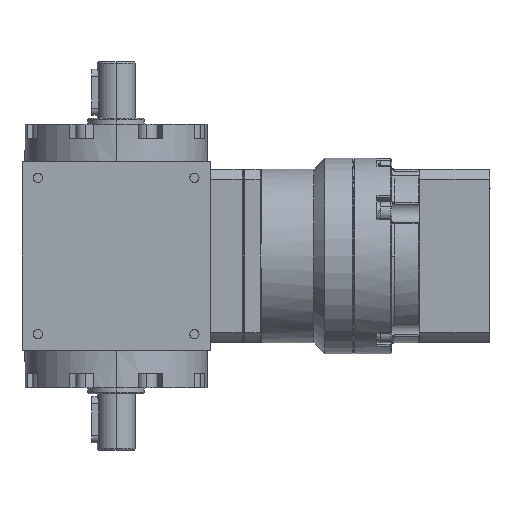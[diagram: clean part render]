
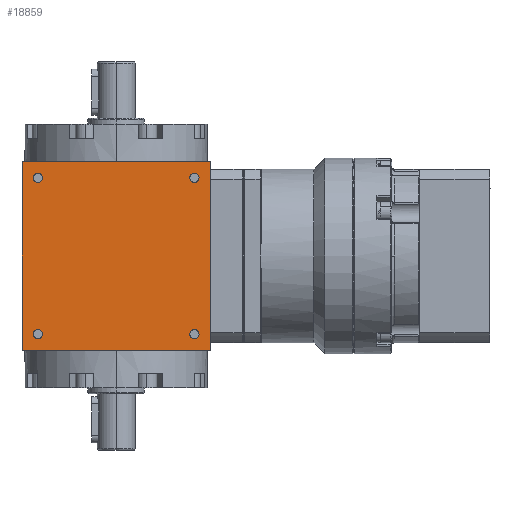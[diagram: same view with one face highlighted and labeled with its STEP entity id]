
A CAD part, left-side view. The second image highlights one B-rep face of the part: STEP entity #18859.
In plain terms, the highlighted planar face has unit normal (-1, 0, 0).
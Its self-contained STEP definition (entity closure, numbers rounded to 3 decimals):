
#992 = DIRECTION ( 'NONE',  ( 1., 0., 0. ) ) ;
#1255 = EDGE_CURVE ( 'NONE', #44774, #25100, #40708, .T. ) ;
#1484 = CARTESIAN_POINT ( 'NONE',  ( -32.5, 0., 32.5 ) ) ;
#1803 = CARTESIAN_POINT ( 'NONE',  ( -32.5, -32.5, -32.5 ) ) ;
#3069 = DIRECTION ( 'NONE',  ( 1., 0., 0. ) ) ;
#3482 = VERTEX_POINT ( 'NONE', #22900 ) ;
#3682 = EDGE_CURVE ( 'NONE', #24050, #33992, #9559, .T. ) ;
#3808 = CIRCLE ( 'NONE', #29967, 1.6 ) ;
#4637 = CARTESIAN_POINT ( 'NONE',  ( -32.5, -27., -28.6 ) ) ;
#4960 = DIRECTION ( 'NONE',  ( 0., 0., 1. ) ) ;
#5188 = AXIS2_PLACEMENT_3D ( 'NONE', #42441, #42913, #13914 ) ;
#5300 = CIRCLE ( 'NONE', #38132, 1.6 ) ;
#5449 = CIRCLE ( 'NONE', #36057, 1.6 ) ;
#5454 = ORIENTED_EDGE ( 'NONE', *, *, #1255, .T. ) ;
#5903 = EDGE_LOOP ( 'NONE', ( #42529, #29202 ) ) ;
#6006 = DIRECTION ( 'NONE',  ( 0., 0., 1. ) ) ;
#6929 = DIRECTION ( 'NONE',  ( 0., -1., 0. ) ) ;
#7153 = PLANE ( 'NONE',  #30177 ) ;
#8147 = EDGE_CURVE ( 'NONE', #24050, #18420, #37098, .T. ) ;
#9546 = ORIENTED_EDGE ( 'NONE', *, *, #31393, .T. ) ;
#9559 = LINE ( 'NONE', #46011, #44556 ) ;
#9934 = DIRECTION ( 'NONE',  ( 0., 0., 1. ) ) ;
#10667 = DIRECTION ( 'NONE',  ( 0., 0., 1. ) ) ;
#11278 = CARTESIAN_POINT ( 'NONE',  ( -32.5, 27., -28.6 ) ) ;
#12288 = DIRECTION ( 'NONE',  ( 1., 0., 0. ) ) ;
#12889 = CIRCLE ( 'NONE', #39019, 1.6 ) ;
#13023 = CARTESIAN_POINT ( 'NONE',  ( -32.5, 27., -27. ) ) ;
#13077 = DIRECTION ( 'NONE',  ( 0., 0., 1. ) ) ;
#13309 = ORIENTED_EDGE ( 'NONE', *, *, #8147, .F. ) ;
#13511 = DIRECTION ( 'NONE',  ( 0., 0., 1. ) ) ;
#13544 = VERTEX_POINT ( 'NONE', #32258 ) ;
#13640 = CARTESIAN_POINT ( 'NONE',  ( -32.5, 27., 28.6 ) ) ;
#13700 = FACE_BOUND ( 'NONE', #16955, .T. ) ;
#13914 = DIRECTION ( 'NONE',  ( 0., 0., 1. ) ) ;
#13919 = FACE_OUTER_BOUND ( 'NONE', #26990, .T. ) ;
#14243 = VECTOR ( 'NONE', #13077, 1000. ) ;
#14291 = VECTOR ( 'NONE', #18909, 1000. ) ;
#14454 = CARTESIAN_POINT ( 'NONE',  ( -32.5, 32.5, 32.5 ) ) ;
#14622 = AXIS2_PLACEMENT_3D ( 'NONE', #31375, #3069, #38594 ) ;
#15271 = VERTEX_POINT ( 'NONE', #40604 ) ;
#15758 = DIRECTION ( 'NONE',  ( 0., -1., 0. ) ) ;
#16603 = LINE ( 'NONE', #30878, #14243 ) ;
#16888 = EDGE_CURVE ( 'NONE', #43270, #37219, #3808, .T. ) ;
#16955 = EDGE_LOOP ( 'NONE', ( #35873, #31206 ) ) ;
#17077 = DIRECTION ( 'NONE',  ( 0., 0., 1. ) ) ;
#17228 = CIRCLE ( 'NONE', #30627, 1.6 ) ;
#17692 = EDGE_CURVE ( 'NONE', #13544, #30233, #12889, .T. ) ;
#18269 = EDGE_CURVE ( 'NONE', #30233, #13544, #5449, .T. ) ;
#18375 = CARTESIAN_POINT ( 'NONE',  ( -32.5, -27., 27. ) ) ;
#18420 = VERTEX_POINT ( 'NONE', #14454 ) ;
#18859 = ADVANCED_FACE ( 'NONE', ( #13919, #28201, #13700, #38931, #35437 ), #7153, .T. ) ;
#18909 = DIRECTION ( 'NONE',  ( 0., 0., 1. ) ) ;
#20418 = VERTEX_POINT ( 'NONE', #13640 ) ;
#21637 = DIRECTION ( 'NONE',  ( 1., 0., 0. ) ) ;
#22367 = EDGE_CURVE ( 'NONE', #33992, #15271, #16603, .T. ) ;
#22657 = EDGE_CURVE ( 'NONE', #20418, #3482, #5300, .T. ) ;
#22900 = CARTESIAN_POINT ( 'NONE',  ( -32.5, 27., 25.4 ) ) ;
#23096 = AXIS2_PLACEMENT_3D ( 'NONE', #13023, #41550, #6006 ) ;
#23298 = CARTESIAN_POINT ( 'NONE',  ( -32.5, -27., 25.4 ) ) ;
#24050 = VERTEX_POINT ( 'NONE', #28582 ) ;
#24740 = CARTESIAN_POINT ( 'NONE',  ( -32.5, 27., 27. ) ) ;
#25100 = VERTEX_POINT ( 'NONE', #41457 ) ;
#25327 = ORIENTED_EDGE ( 'NONE', *, *, #22657, .T. ) ;
#26470 = ORIENTED_EDGE ( 'NONE', *, *, #36918, .F. ) ;
#26616 = EDGE_LOOP ( 'NONE', ( #9546, #5454 ) ) ;
#26932 = CARTESIAN_POINT ( 'NONE',  ( -32.5, -27., 27. ) ) ;
#26990 = EDGE_LOOP ( 'NONE', ( #13309, #41653, #32342, #26470 ) ) ;
#27242 = EDGE_CURVE ( 'NONE', #3482, #20418, #17228, .T. ) ;
#28201 = FACE_BOUND ( 'NONE', #33998, .T. ) ;
#28249 = DIRECTION ( 'NONE',  ( 0., -1., 0. ) ) ;
#28582 = CARTESIAN_POINT ( 'NONE',  ( -32.5, 32.5, -32.5 ) ) ;
#29202 = ORIENTED_EDGE ( 'NONE', *, *, #44907, .T. ) ;
#29967 = AXIS2_PLACEMENT_3D ( 'NONE', #31591, #42110, #17077 ) ;
#30177 = AXIS2_PLACEMENT_3D ( 'NONE', #42227, #41756, #6929 ) ;
#30233 = VERTEX_POINT ( 'NONE', #23298 ) ;
#30627 = AXIS2_PLACEMENT_3D ( 'NONE', #24740, #38738, #13511 ) ;
#30878 = CARTESIAN_POINT ( 'NONE',  ( -32.5, -32.5, -32.5 ) ) ;
#31206 = ORIENTED_EDGE ( 'NONE', *, *, #18269, .T. ) ;
#31375 = CARTESIAN_POINT ( 'NONE',  ( -32.5, -27., -27. ) ) ;
#31393 = EDGE_CURVE ( 'NONE', #25100, #44774, #32061, .T. ) ;
#31591 = CARTESIAN_POINT ( 'NONE',  ( -32.5, 27., -27. ) ) ;
#32061 = CIRCLE ( 'NONE', #5188, 1.6 ) ;
#32258 = CARTESIAN_POINT ( 'NONE',  ( -32.5, -27., 28.6 ) ) ;
#32342 = ORIENTED_EDGE ( 'NONE', *, *, #22367, .T. ) ;
#33515 = LINE ( 'NONE', #1484, #40415 ) ;
#33992 = VERTEX_POINT ( 'NONE', #1803 ) ;
#33998 = EDGE_LOOP ( 'NONE', ( #25327, #41622 ) ) ;
#35437 = FACE_BOUND ( 'NONE', #5903, .T. ) ;
#35873 = ORIENTED_EDGE ( 'NONE', *, *, #17692, .T. ) ;
#36057 = AXIS2_PLACEMENT_3D ( 'NONE', #26932, #992, #4960 ) ;
#36705 = CARTESIAN_POINT ( 'NONE',  ( -32.5, 27., -25.4 ) ) ;
#36918 = EDGE_CURVE ( 'NONE', #18420, #15271, #33515, .T. ) ;
#37098 = LINE ( 'NONE', #39940, #14291 ) ;
#37219 = VERTEX_POINT ( 'NONE', #11278 ) ;
#38132 = AXIS2_PLACEMENT_3D ( 'NONE', #44309, #12288, #9934 ) ;
#38594 = DIRECTION ( 'NONE',  ( 0., 0., 1. ) ) ;
#38738 = DIRECTION ( 'NONE',  ( 1., 0., 0. ) ) ;
#38931 = FACE_BOUND ( 'NONE', #26616, .T. ) ;
#39019 = AXIS2_PLACEMENT_3D ( 'NONE', #18375, #21637, #10667 ) ;
#39940 = CARTESIAN_POINT ( 'NONE',  ( -32.5, 32.5, -32.5 ) ) ;
#40415 = VECTOR ( 'NONE', #15758, 1000. ) ;
#40604 = CARTESIAN_POINT ( 'NONE',  ( -32.5, -32.5, 32.5 ) ) ;
#40708 = CIRCLE ( 'NONE', #14622, 1.6 ) ;
#41457 = CARTESIAN_POINT ( 'NONE',  ( -32.5, -27., -25.4 ) ) ;
#41550 = DIRECTION ( 'NONE',  ( 1., 0., 0. ) ) ;
#41622 = ORIENTED_EDGE ( 'NONE', *, *, #27242, .T. ) ;
#41653 = ORIENTED_EDGE ( 'NONE', *, *, #3682, .T. ) ;
#41756 = DIRECTION ( 'NONE',  ( -1., 0., 0. ) ) ;
#42110 = DIRECTION ( 'NONE',  ( 1., 0., 0. ) ) ;
#42227 = CARTESIAN_POINT ( 'NONE',  ( -32.5, 32.5, -32.5 ) ) ;
#42441 = CARTESIAN_POINT ( 'NONE',  ( -32.5, -27., -27. ) ) ;
#42529 = ORIENTED_EDGE ( 'NONE', *, *, #16888, .T. ) ;
#42913 = DIRECTION ( 'NONE',  ( 1., 0., 0. ) ) ;
#43270 = VERTEX_POINT ( 'NONE', #36705 ) ;
#44309 = CARTESIAN_POINT ( 'NONE',  ( -32.5, 27., 27. ) ) ;
#44556 = VECTOR ( 'NONE', #28249, 1000. ) ;
#44712 = CIRCLE ( 'NONE', #23096, 1.6 ) ;
#44774 = VERTEX_POINT ( 'NONE', #4637 ) ;
#44907 = EDGE_CURVE ( 'NONE', #37219, #43270, #44712, .T. ) ;
#46011 = CARTESIAN_POINT ( 'NONE',  ( -32.5, 0., -32.5 ) ) ;
